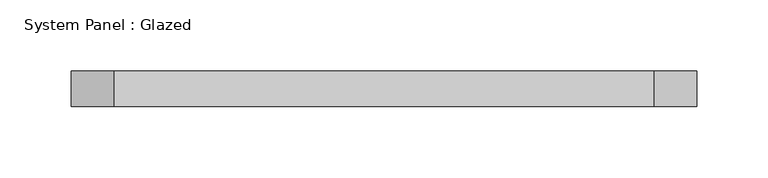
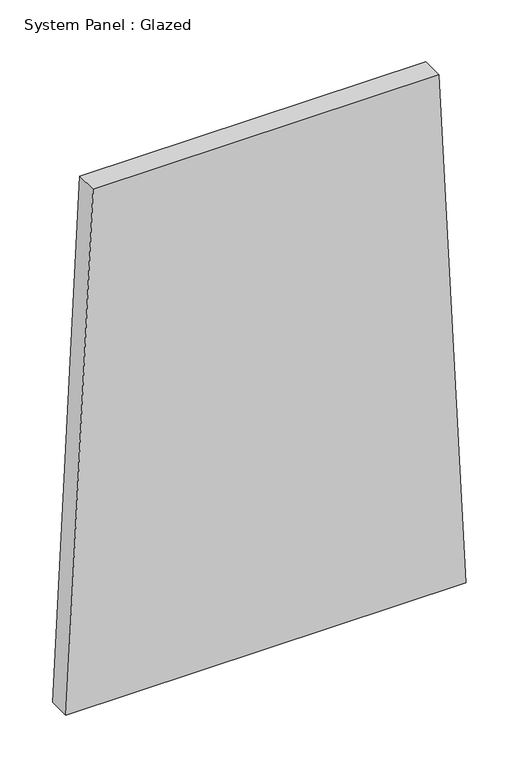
"""IFC4 building model written with IfcOpenShell, lengths in millimetres: plate geometry, System Panel : Glazed."""

from ifc_helpers import new_model, si_unit, frame, origin, place, context, project, spatial, polyline, outline, extrude, source, transform, mapped, element, save


def system_panel_glazed_0901b81b(model_context):
    return source(origin(), model_context, "Body", "SweptSolid", [
        extrude(outline(polyline([(0.0, -219.6731726), (0.0, 219.6731726), (599.2575984, 189.8347626), (599.2575984, -189.8347626), (0.0, -219.6731726)])), frame((0.0, 24.5, 0.0), z_axis=(0.0, 1.0, 0.0), x_axis=(0.0, 0.0, 1.0)), (0.0, 0.0, 1.0), 25.0),
    ])


if __name__ == "__main__":
    model = new_model("IFC4")
    model_context = context("Model", 3, world=origin())
    ifc_project = project(units=[si_unit("LENGTHUNIT", "METRE", prefix="MILLI")], contexts=[model_context])
    site = spatial("IfcSite", under=ifc_project)
    building = spatial("IfcBuilding", under=site)
    placement = place(None, origin())
    system_panel_glazed_shape = system_panel_glazed_0901b81b(model_context)
    element("IfcPlate", 1, ObjectType="System Panel : Glazed", at=placement, inside=building, context=model_context, shape_type="MappedRepresentation", body=[
        mapped(system_panel_glazed_shape, transform((0.0, 0.0, 0.0), x_axis=(1.0, 0.0, 0.0), y_axis=(0.0, 1.0, 0.0), z_axis=(0.0, 0.0, 1.0))),
    ])
    save(model, "model.ifc")
